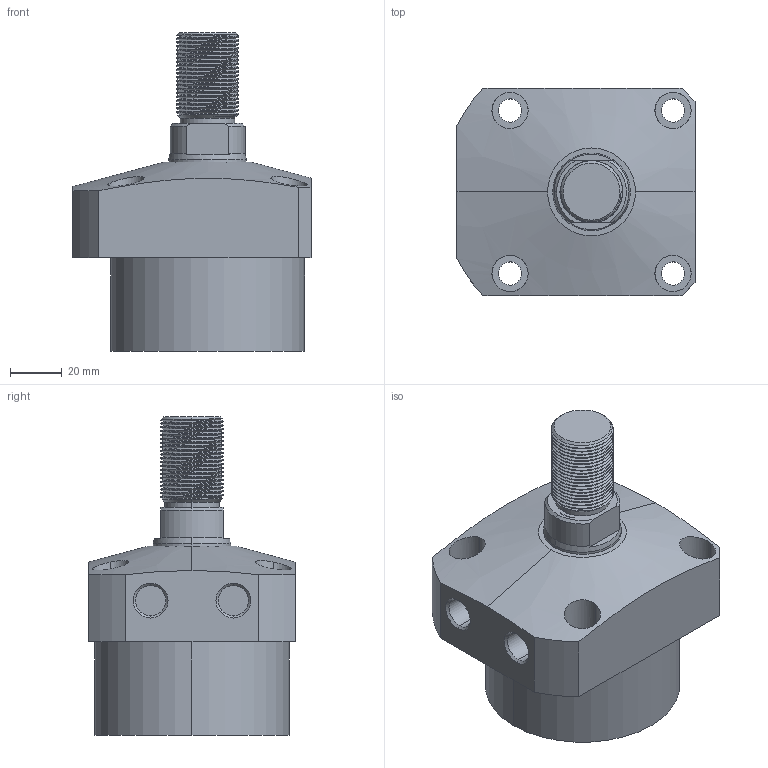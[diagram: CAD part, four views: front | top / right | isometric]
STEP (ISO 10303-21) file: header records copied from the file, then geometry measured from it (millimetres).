
FILE_DESCRIPTION (( 'STEP AP203' ), '1' );
FILE_NAME ('CLL-075CT-020.STEP', '2020-01-08T11:48:24', ( '' ), ( '' ), 'SwSTEP 2.0', 'SolidWorks 2015', '' );
FILE_SCHEMA (( 'CONFIG_CONTROL_DESIGN' ));
Length unit declared in the file: millimetre
Products named in the file (1): CLL-075CT-020
Bounding box: 92 x 80 x 123 mm (x, y, z)
Volume: 402283.7 mm3; surface area: 42837.9 mm2
Topology: 1 solids, 1 shells, 122 faces, 312 edges, 204 vertices
Faces by surface type: cylinder 77, plane 25, cone 16, bspline 4
Entity records: 7963 total; most frequent: CARTESIAN_POINT 5167, ORIENTED_EDGE 624, DIRECTION 511, EDGE_CURVE 312, VERTEX_POINT 204, AXIS2_PLACEMENT_3D 199, EDGE_LOOP 142, ADVANCED_FACE 122
